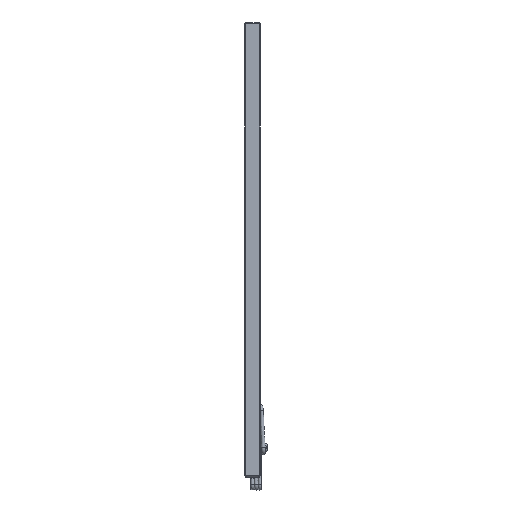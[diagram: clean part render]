
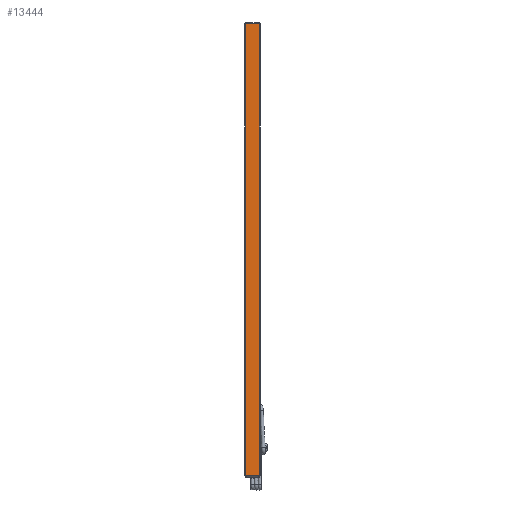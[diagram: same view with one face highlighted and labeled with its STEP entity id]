
A CAD part, front view. The second image highlights one B-rep face of the part: STEP entity #13444.
In plain terms, the highlighted planar face has unit normal (0, -1, 0).
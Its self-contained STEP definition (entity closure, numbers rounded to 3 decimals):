
#1706=FACE_OUTER_BOUND('',#2480,.T.);
#2480=EDGE_LOOP('',(#9598,#9599,#9600,#9601));
#3441=LINE('',#19420,#4666);
#3443=LINE('',#19426,#4668);
#3455=LINE('',#19476,#4680);
#3456=LINE('',#19477,#4681);
#4666=VECTOR('',#15969,10.);
#4668=VECTOR('',#15975,10.);
#4680=VECTOR('',#16015,10.);
#4681=VECTOR('',#16016,10.);
#5842=VERTEX_POINT('',#19417);
#5843=VERTEX_POINT('',#19419);
#5845=VERTEX_POINT('',#19425);
#5869=VERTEX_POINT('',#19475);
#7266=EDGE_CURVE('',#5842,#5843,#3441,.T.);
#7269=EDGE_CURVE('',#5845,#5843,#3443,.T.);
#7294=EDGE_CURVE('',#5842,#5869,#3455,.T.);
#7295=EDGE_CURVE('',#5845,#5869,#3456,.T.);
#9598=ORIENTED_EDGE('',*,*,#7266,.F.);
#9599=ORIENTED_EDGE('',*,*,#7294,.T.);
#9600=ORIENTED_EDGE('',*,*,#7295,.F.);
#9601=ORIENTED_EDGE('',*,*,#7269,.T.);
#13029=PLANE('',#14479);
#13444=ADVANCED_FACE('',(#1706),#13029,.T.);
#14479=AXIS2_PLACEMENT_3D('',#19474,#16013,#16014);
#15969=DIRECTION('',(0.,0.,-1.));
#15975=DIRECTION('',(1.,0.,0.));
#16013=DIRECTION('center_axis',(0.,-1.,0.));
#16014=DIRECTION('ref_axis',(0.,0.,-1.));
#16015=DIRECTION('',(-1.,0.,0.));
#16016=DIRECTION('',(0.,0.,1.));
#19417=CARTESIAN_POINT('',(18.421,0.,1219.2));
#19419=CARTESIAN_POINT('',(18.421,0.,0.));
#19420=CARTESIAN_POINT('',(18.421,0.,0.));
#19425=CARTESIAN_POINT('',(-18.421,0.,0.));
#19426=CARTESIAN_POINT('',(-18.735,0.,0.));
#19474=CARTESIAN_POINT('Origin',(18.735,0.,0.));
#19475=CARTESIAN_POINT('',(-18.421,0.,1219.2));
#19476=CARTESIAN_POINT('',(-18.735,0.,1219.2));
#19477=CARTESIAN_POINT('',(-18.421,0.,0.));
